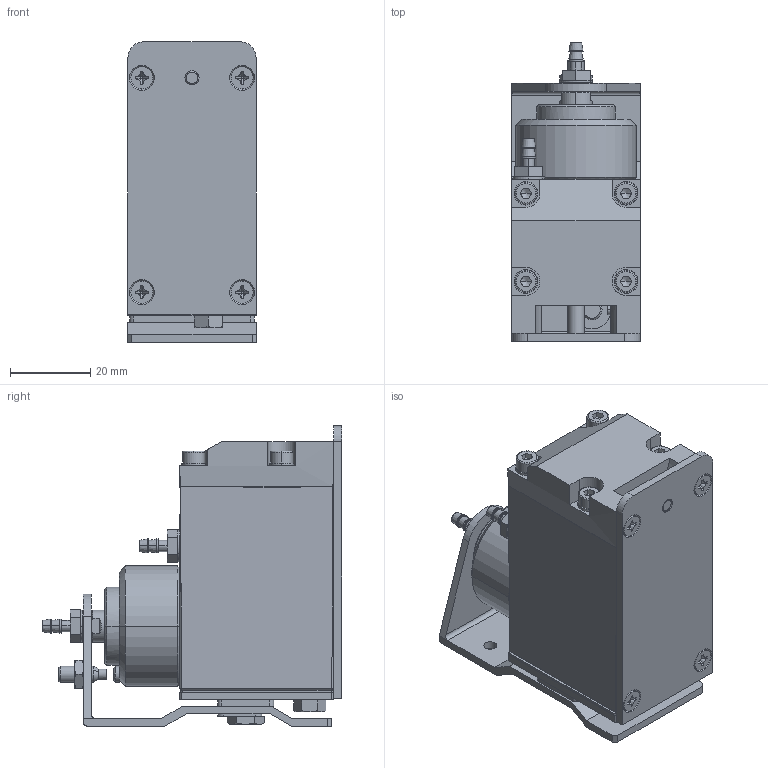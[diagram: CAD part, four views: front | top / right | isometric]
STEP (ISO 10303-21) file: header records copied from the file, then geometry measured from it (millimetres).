
FILE_DESCRIPTION (( 'STEP AP214' ), '1' );
FILE_NAME ('GT-NT05.STEP', '2019-11-27T08:37:30', ( '微软用户' ), ( '微软中国' ), 'SwSTEP 2.0', 'SolidWorks 2016', '' );
FILE_SCHEMA (( 'AUTOMOTIVE_DESIGN' ));
Length unit declared in the file: millimetre
Products named in the file (1): GT-NT05
Bounding box: 32 x 74.8 x 75 mm (x, y, z)
Surface area: 33115.4 mm2 (no closed solid volume)
Topology: 0 solids, 124 shells, 1145 faces, 2966 edges, 2000 vertices
Faces by surface type: plane 528, cylinder 318, bspline 183, cone 92, torus 24
Entity records: 53243 total; most frequent: CARTESIAN_POINT 20624, ORIENTED_EDGE 5386, DIRECTION 4818, EDGE_CURVE 2930, VERTEX_POINT 2000, AXIS2_PLACEMENT_3D 1800, EDGE_LOOP 1290, VECTOR 1218
